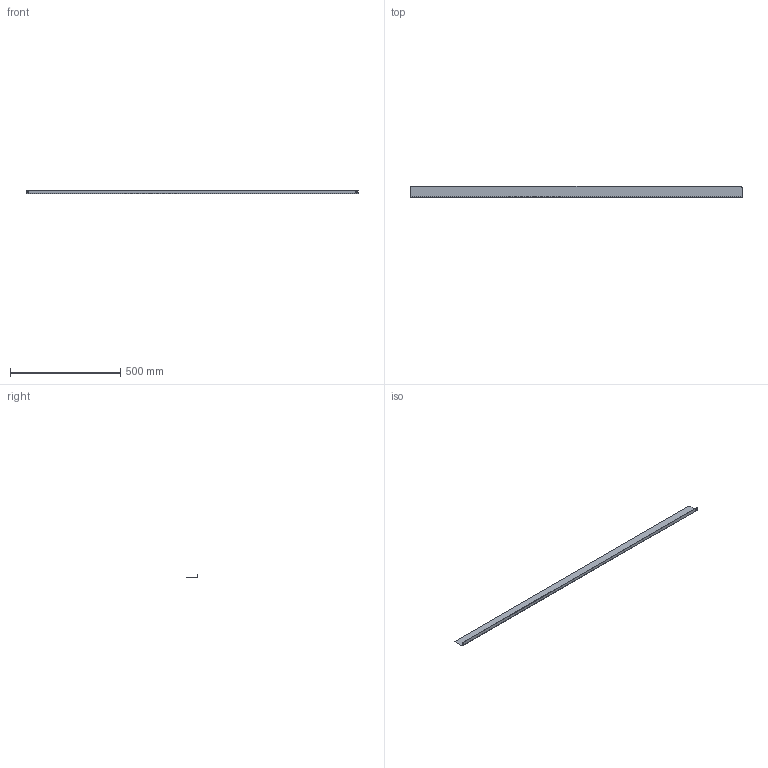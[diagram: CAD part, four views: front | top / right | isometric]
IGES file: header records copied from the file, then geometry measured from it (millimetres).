
Start section: SolidWorks IGES file using analytic representation for surfaces
Global section: file name: C:\Users\User\Desktop\Àêñåññóàðû Outliner S\Àíòèîñëåïëÿþùèé ýêðàí Outliner S.IGS; native system: SolidWorks 2020; preprocessor: SolidWorks 2020; author: User; date: 231115.183813; units: millimetre
Bounding box: 1509 x 50 x 17 mm (x, y, z)
Volume: 98202.1 mm3; surface area: 199611.8 mm2
Topology: 1 solids, 1 shells, 22 faces, 52 edges, 32 vertices
Faces by surface type: plane 12, revolution 10
